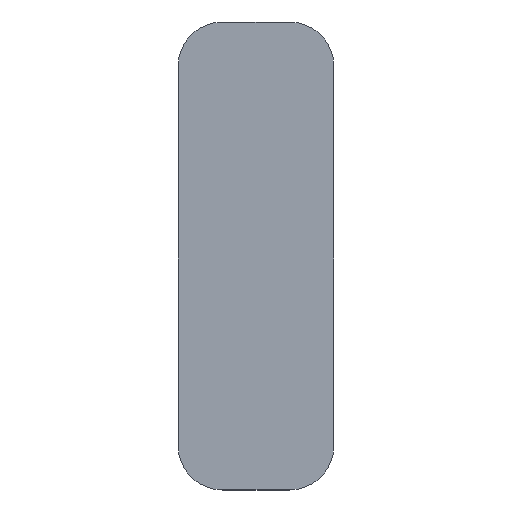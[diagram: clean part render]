
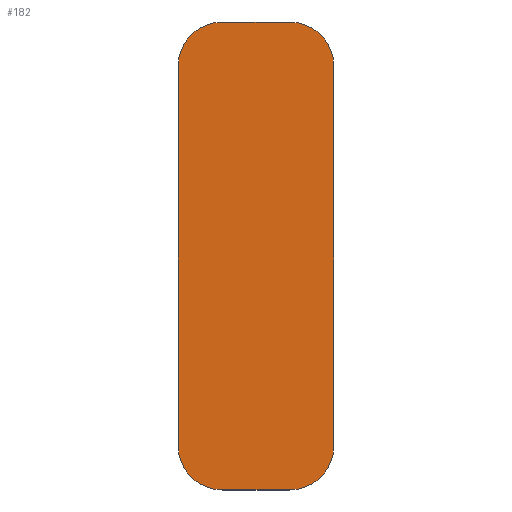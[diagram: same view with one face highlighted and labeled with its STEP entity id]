
A CAD part, top view. The second image highlights one B-rep face of the part: STEP entity #182.
In plain terms, the highlighted planar face has unit normal (0, 0, 1).
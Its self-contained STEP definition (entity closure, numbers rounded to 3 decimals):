
#20=PLANE('',#220);
#30=FACE_OUTER_BOUND('',#40,.T.);
#40=EDGE_LOOP('',(#161,#162,#163,#164,#165,#166,#167,#168));
#44=LINE('',#289,#60);
#48=LINE('',#301,#64);
#52=LINE('',#313,#68);
#56=LINE('',#323,#72);
#60=VECTOR('',#234,10.);
#64=VECTOR('',#246,10.);
#68=VECTOR('',#258,10.);
#72=VECTOR('',#270,10.);
#74=CIRCLE('',#205,20.);
#76=CIRCLE('',#209,20.);
#78=CIRCLE('',#213,20.);
#80=CIRCLE('',#217,20.);
#83=VERTEX_POINT('',#280);
#84=VERTEX_POINT('',#282);
#86=VERTEX_POINT('',#288);
#88=VERTEX_POINT('',#294);
#90=VERTEX_POINT('',#300);
#92=VERTEX_POINT('',#306);
#94=VERTEX_POINT('',#312);
#96=VERTEX_POINT('',#318);
#99=EDGE_CURVE('',#84,#83,#74,.T.);
#102=EDGE_CURVE('',#86,#84,#44,.T.);
#105=EDGE_CURVE('',#88,#86,#76,.T.);
#108=EDGE_CURVE('',#90,#88,#48,.T.);
#111=EDGE_CURVE('',#92,#90,#78,.T.);
#114=EDGE_CURVE('',#94,#92,#52,.T.);
#117=EDGE_CURVE('',#96,#94,#80,.T.);
#120=EDGE_CURVE('',#83,#96,#56,.T.);
#161=ORIENTED_EDGE('',*,*,#120,.T.);
#162=ORIENTED_EDGE('',*,*,#117,.T.);
#163=ORIENTED_EDGE('',*,*,#114,.T.);
#164=ORIENTED_EDGE('',*,*,#111,.T.);
#165=ORIENTED_EDGE('',*,*,#108,.T.);
#166=ORIENTED_EDGE('',*,*,#105,.T.);
#167=ORIENTED_EDGE('',*,*,#102,.T.);
#168=ORIENTED_EDGE('',*,*,#99,.T.);
#182=ADVANCED_FACE('',(#30),#20,.T.);
#205=AXIS2_PLACEMENT_3D('',#283,#228,#229);
#209=AXIS2_PLACEMENT_3D('',#295,#240,#241);
#213=AXIS2_PLACEMENT_3D('',#307,#252,#253);
#217=AXIS2_PLACEMENT_3D('',#319,#264,#265);
#220=AXIS2_PLACEMENT_3D('',#325,#273,#274);
#228=DIRECTION('center_axis',(0.,0.,1.));
#229=DIRECTION('ref_axis',(1.,0.,0.));
#234=DIRECTION('',(0.,-1.,0.));
#240=DIRECTION('center_axis',(0.,0.,1.));
#241=DIRECTION('ref_axis',(0.,-1.,0.));
#246=DIRECTION('',(-1.,0.,0.));
#252=DIRECTION('center_axis',(0.,0.,1.));
#253=DIRECTION('ref_axis',(-1.,0.,0.));
#258=DIRECTION('',(0.,1.,0.));
#264=DIRECTION('center_axis',(0.,0.,1.));
#265=DIRECTION('ref_axis',(0.,1.,0.));
#270=DIRECTION('',(1.,0.,0.));
#273=DIRECTION('center_axis',(0.,0.,1.));
#274=DIRECTION('ref_axis',(1.,0.,0.));
#280=CARTESIAN_POINT('',(42.,29.526,3.));
#282=CARTESIAN_POINT('',(22.,49.526,3.));
#283=CARTESIAN_POINT('Origin',(42.,49.526,3.));
#288=CARTESIAN_POINT('',(22.,219.526,3.));
#289=CARTESIAN_POINT('',(22.,49.526,3.));
#294=CARTESIAN_POINT('',(42.,239.526,3.));
#295=CARTESIAN_POINT('Origin',(42.,219.526,3.));
#300=CARTESIAN_POINT('',(72.,239.526,3.));
#301=CARTESIAN_POINT('',(42.,239.526,3.));
#306=CARTESIAN_POINT('',(92.,219.526,3.));
#307=CARTESIAN_POINT('Origin',(72.,219.526,3.));
#312=CARTESIAN_POINT('',(92.,49.526,3.));
#313=CARTESIAN_POINT('',(92.,219.526,3.));
#318=CARTESIAN_POINT('',(72.,29.526,3.));
#319=CARTESIAN_POINT('Origin',(72.,49.526,3.));
#323=CARTESIAN_POINT('',(72.,29.526,3.));
#325=CARTESIAN_POINT('Origin',(57.,134.526,3.));
